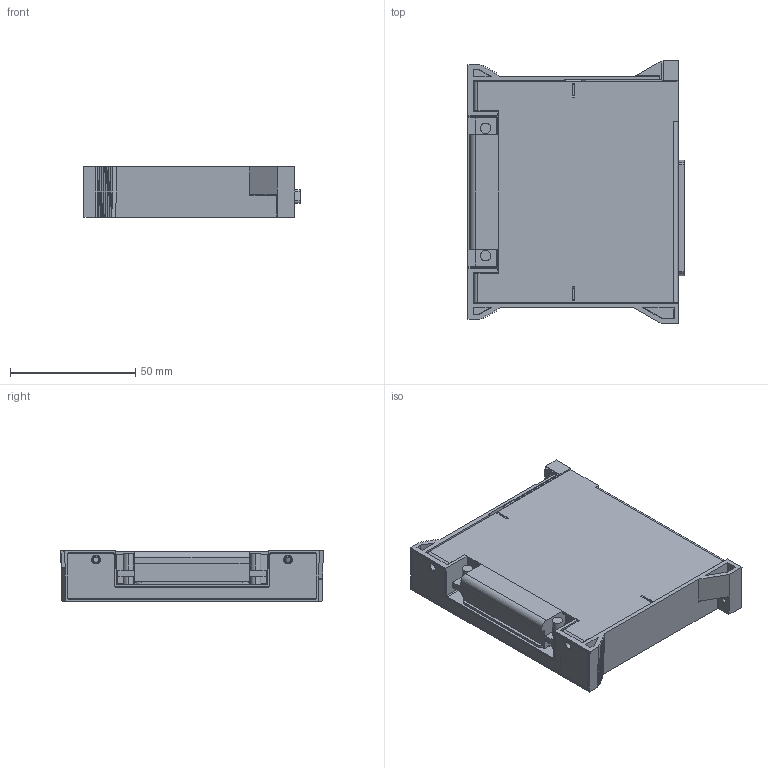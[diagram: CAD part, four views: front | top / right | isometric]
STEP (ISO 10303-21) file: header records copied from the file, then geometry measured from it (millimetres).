
FILE_DESCRIPTION((''),'2;1');
FILE_NAME('CU_TB-2715','2007-08-13T',('lmcdanie'),(''),'PRO/ENGINEER BY PARAMETRIC TECHNOLOGY CORPORATION, 2006080','PRO/ENGINEER BY PARAMETRIC TECHNOLOGY CORPORATION, 2006080','');
FILE_SCHEMA(('CONFIG_CONTROL_DESIGN'));
Length unit declared in the file: inch
Products named in the file (1): CU_TB-2715
Bounding box: 86.22 x 104.78 x 20.02 mm (x, y, z)
Volume: 48935.6 mm3; surface area: 63971.4 mm2
Topology: 1 solids, 1 shells, 1088 faces, 2918 edges, 1808 vertices
Faces by surface type: plane 701, cylinder 248, bspline 60, cone 44, sphere 27, torus 8
Entity records: 35365 total; most frequent: CARTESIAN_POINT 8347, ORIENTED_EDGE 5716, DIRECTION 5347, EDGE_CURVE 2858, VECTOR 2041, LINE 2041, VERTEX_POINT 1865, AXIS2_PLACEMENT_3D 1653
